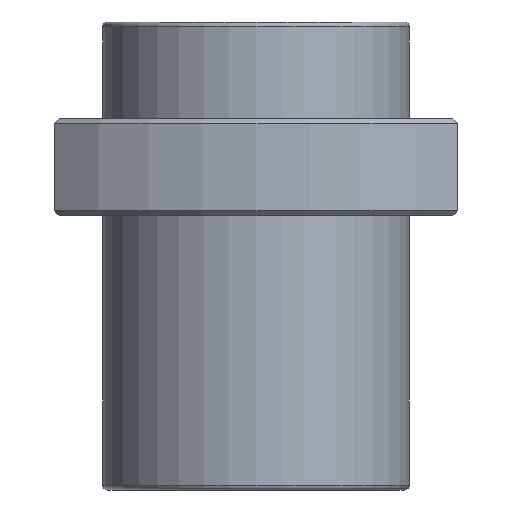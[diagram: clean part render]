
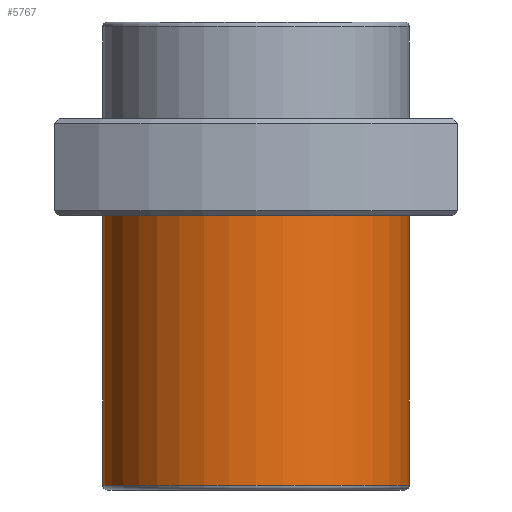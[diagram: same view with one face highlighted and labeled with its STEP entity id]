
A CAD part, front view. The second image highlights one B-rep face of the part: STEP entity #5767.
In plain terms, the highlighted cylindrical face has radius 9.5 mm (diameter 19 mm), a full revolution.
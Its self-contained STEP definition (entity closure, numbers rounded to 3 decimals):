
#92=CYLINDRICAL_SURFACE('',#6141,9.5);
#122=CIRCLE('',#6142,9.5);
#123=CIRCLE('',#6143,9.5);
#1739=ORIENTED_EDGE('',*,*,#3403,.T.);
#1740=ORIENTED_EDGE('',*,*,#3404,.T.);
#3403=EDGE_CURVE('',#4234,#4234,#122,.T.);
#3404=EDGE_CURVE('',#4235,#4235,#123,.F.);
#4234=VERTEX_POINT('',#9132);
#4235=VERTEX_POINT('',#9134);
#4714=EDGE_LOOP('',(#1739));
#4715=EDGE_LOOP('',(#1740));
#5133=FACE_BOUND('',#4714,.T.);
#5134=FACE_BOUND('',#4715,.T.);
#5767=ADVANCED_FACE('',(#5133,#5134),#92,.T.);
#6141=AXIS2_PLACEMENT_3D('',#9130,#6680,#6681);
#6142=AXIS2_PLACEMENT_3D('',#9131,#6682,#6683);
#6143=AXIS2_PLACEMENT_3D('',#9133,#6684,#6685);
#6680=DIRECTION('',(0.,0.,1.));
#6681=DIRECTION('',(1.,0.,0.));
#6682=DIRECTION('',(0.,0.,1.));
#6683=DIRECTION('',(1.,0.,0.));
#6684=DIRECTION('',(0.,0.,1.));
#6685=DIRECTION('',(1.,0.,0.));
#9130=CARTESIAN_POINT('',(0.,0.,-23.));
#9131=CARTESIAN_POINT('',(0.,0.,-22.7));
#9132=CARTESIAN_POINT('',(9.5,0.,-22.7));
#9133=CARTESIAN_POINT('',(0.,0.,-6.));
#9134=CARTESIAN_POINT('',(9.5,0.,-6.));
